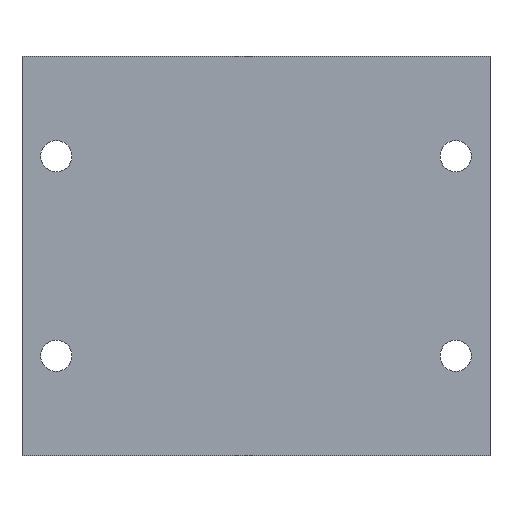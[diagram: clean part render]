
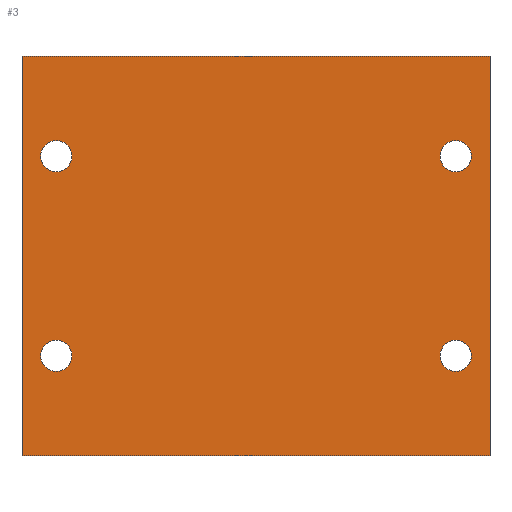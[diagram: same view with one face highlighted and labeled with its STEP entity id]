
A CAD part, left-side view. The second image highlights one B-rep face of the part: STEP entity #3.
In plain terms, the highlighted planar face has unit normal (-1, 0, 0).
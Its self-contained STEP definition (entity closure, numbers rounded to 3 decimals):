
#3 = ADVANCED_FACE ( 'NONE', ( #2445, #1973, #1490, #959, #443 ), #1454, .F. ) ;
#81 = AXIS2_PLACEMENT_3D ( 'NONE', #1642, #2086, #374 ) ;
#150 = CARTESIAN_POINT ( 'NONE',  ( 0., 69.5, 16. ) ) ;
#163 = CARTESIAN_POINT ( 'NONE',  ( 0., 69.5, 45.5 ) ) ;
#183 = VECTOR ( 'NONE', #2468, 1000. ) ;
#202 = VERTEX_POINT ( 'NONE', #2117 ) ;
#205 = CARTESIAN_POINT ( 'NONE',  ( 0., 5.5, 18.5 ) ) ;
#245 = LINE ( 'NONE', #511, #183 ) ;
#269 = DIRECTION ( 'NONE',  ( 0., 0., -1. ) ) ;
#302 = AXIS2_PLACEMENT_3D ( 'NONE', #150, #1669, #1803 ) ;
#319 = AXIS2_PLACEMENT_3D ( 'NONE', #1436, #1269, #2344 ) ;
#338 = CIRCLE ( 'NONE', #359, 2.5 ) ;
#344 = AXIS2_PLACEMENT_3D ( 'NONE', #1894, #1917, #1974 ) ;
#359 = AXIS2_PLACEMENT_3D ( 'NONE', #942, #952, #920 ) ;
#360 = VERTEX_POINT ( 'NONE', #2185 ) ;
#374 = DIRECTION ( 'NONE',  ( 0., 0., -1. ) ) ;
#416 = EDGE_LOOP ( 'NONE', ( #991, #1522 ) ) ;
#441 = VECTOR ( 'NONE', #2148, 1000. ) ;
#443 = FACE_OUTER_BOUND ( 'NONE', #454, .T. ) ;
#454 = EDGE_LOOP ( 'NONE', ( #468, #1740, #2429, #1960 ) ) ;
#468 = ORIENTED_EDGE ( 'NONE', *, *, #469, .T. ) ;
#469 = EDGE_CURVE ( 'NONE', #1698, #202, #1488, .T. ) ;
#470 = CARTESIAN_POINT ( 'NONE',  ( 0., 69.5, 48. ) ) ;
#509 = VECTOR ( 'NONE', #624, 1000. ) ;
#511 = CARTESIAN_POINT ( 'NONE',  ( 0., 0., 64. ) ) ;
#525 = VERTEX_POINT ( 'NONE', #2000 ) ;
#542 = VERTEX_POINT ( 'NONE', #813 ) ;
#544 = ORIENTED_EDGE ( 'NONE', *, *, #1868, .T. ) ;
#599 = DIRECTION ( 'NONE',  ( 0., 0., -1. ) ) ;
#600 = CARTESIAN_POINT ( 'NONE',  ( 0., 69.5, 48. ) ) ;
#612 = VERTEX_POINT ( 'NONE', #163 ) ;
#624 = DIRECTION ( 'NONE',  ( 0., -1., 0. ) ) ;
#721 = EDGE_LOOP ( 'NONE', ( #1107, #2311 ) ) ;
#777 = CARTESIAN_POINT ( 'NONE',  ( 0., 75., 64. ) ) ;
#804 = EDGE_CURVE ( 'NONE', #525, #360, #338, .T. ) ;
#813 = CARTESIAN_POINT ( 'NONE',  ( 0., 0., 64. ) ) ;
#817 = DIRECTION ( 'NONE',  ( 1., 0., 0. ) ) ;
#828 = DIRECTION ( 'NONE',  ( 0., 0., -1. ) ) ;
#861 = CARTESIAN_POINT ( 'NONE',  ( 0., 0., 0. ) ) ;
#919 = EDGE_LOOP ( 'NONE', ( #544, #1949 ) ) ;
#920 = DIRECTION ( 'NONE',  ( 0., 0., -1. ) ) ;
#937 = ORIENTED_EDGE ( 'NONE', *, *, #1572, .T. ) ;
#942 = CARTESIAN_POINT ( 'NONE',  ( 0., 5.5, 48. ) ) ;
#952 = DIRECTION ( 'NONE',  ( 1., 0., 0. ) ) ;
#959 = FACE_BOUND ( 'NONE', #2375, .T. ) ;
#972 = ORIENTED_EDGE ( 'NONE', *, *, #1455, .T. ) ;
#991 = ORIENTED_EDGE ( 'NONE', *, *, #1481, .T. ) ;
#1028 = LINE ( 'NONE', #1228, #509 ) ;
#1061 = EDGE_CURVE ( 'NONE', #542, #202, #245, .T. ) ;
#1107 = ORIENTED_EDGE ( 'NONE', *, *, #1146, .T. ) ;
#1121 = EDGE_CURVE ( 'NONE', #1401, #542, #1028, .T. ) ;
#1146 = EDGE_CURVE ( 'NONE', #360, #525, #2442, .T. ) ;
#1151 = VERTEX_POINT ( 'NONE', #1814 ) ;
#1161 = VECTOR ( 'NONE', #1603, 1000. ) ;
#1228 = CARTESIAN_POINT ( 'NONE',  ( 0., 0., 64. ) ) ;
#1245 = DIRECTION ( 'NONE',  ( 1., 0., 0. ) ) ;
#1269 = DIRECTION ( 'NONE',  ( 1., 0., 0. ) ) ;
#1315 = VERTEX_POINT ( 'NONE', #2401 ) ;
#1325 = CIRCLE ( 'NONE', #2469, 2.5 ) ;
#1329 = EDGE_CURVE ( 'NONE', #1151, #612, #1325, .T. ) ;
#1373 = CARTESIAN_POINT ( 'NONE',  ( 0., 69.5, 13.5 ) ) ;
#1401 = VERTEX_POINT ( 'NONE', #777 ) ;
#1412 = CARTESIAN_POINT ( 'NONE',  ( 0., 0., 64. ) ) ;
#1436 = CARTESIAN_POINT ( 'NONE',  ( 0., 5.5, 48. ) ) ;
#1452 = CIRCLE ( 'NONE', #1767, 2.5 ) ;
#1454 = PLANE ( 'NONE',  #1466 ) ;
#1455 = EDGE_CURVE ( 'NONE', #1315, #2089, #1786, .T. ) ;
#1466 = AXIS2_PLACEMENT_3D ( 'NONE', #1412, #1245, #599 ) ;
#1481 = EDGE_CURVE ( 'NONE', #1886, #2064, #1726, .T. ) ;
#1488 = LINE ( 'NONE', #861, #441 ) ;
#1490 = FACE_BOUND ( 'NONE', #416, .T. ) ;
#1522 = ORIENTED_EDGE ( 'NONE', *, *, #1703, .T. ) ;
#1572 = EDGE_CURVE ( 'NONE', #2089, #1315, #1452, .T. ) ;
#1603 = DIRECTION ( 'NONE',  ( 0., 0., -1. ) ) ;
#1640 = CARTESIAN_POINT ( 'NONE',  ( 0., 75., 0. ) ) ;
#1642 = CARTESIAN_POINT ( 'NONE',  ( 0., 5.5, 16. ) ) ;
#1653 = CIRCLE ( 'NONE', #302, 2.5 ) ;
#1669 = DIRECTION ( 'NONE',  ( 1., 0., 0. ) ) ;
#1677 = LINE ( 'NONE', #2319, #1161 ) ;
#1698 = VERTEX_POINT ( 'NONE', #1640 ) ;
#1703 = EDGE_CURVE ( 'NONE', #2064, #1886, #1653, .T. ) ;
#1726 = CIRCLE ( 'NONE', #344, 2.5 ) ;
#1740 = ORIENTED_EDGE ( 'NONE', *, *, #1061, .F. ) ;
#1767 = AXIS2_PLACEMENT_3D ( 'NONE', #2208, #2227, #269 ) ;
#1786 = CIRCLE ( 'NONE', #81, 2.5 ) ;
#1803 = DIRECTION ( 'NONE',  ( 0., 0., -1. ) ) ;
#1814 = CARTESIAN_POINT ( 'NONE',  ( 0., 69.5, 50.5 ) ) ;
#1841 = CIRCLE ( 'NONE', #2224, 2.5 ) ;
#1868 = EDGE_CURVE ( 'NONE', #612, #1151, #1841, .T. ) ;
#1886 = VERTEX_POINT ( 'NONE', #1373 ) ;
#1894 = CARTESIAN_POINT ( 'NONE',  ( 0., 69.5, 16. ) ) ;
#1917 = DIRECTION ( 'NONE',  ( 1., 0., 0. ) ) ;
#1949 = ORIENTED_EDGE ( 'NONE', *, *, #1329, .T. ) ;
#1960 = ORIENTED_EDGE ( 'NONE', *, *, #2443, .T. ) ;
#1973 = FACE_BOUND ( 'NONE', #919, .T. ) ;
#1974 = DIRECTION ( 'NONE',  ( 0., 0., -1. ) ) ;
#2000 = CARTESIAN_POINT ( 'NONE',  ( 0., 5.5, 50.5 ) ) ;
#2052 = DIRECTION ( 'NONE',  ( 1., 0., 0. ) ) ;
#2064 = VERTEX_POINT ( 'NONE', #2120 ) ;
#2086 = DIRECTION ( 'NONE',  ( 1., 0., 0. ) ) ;
#2089 = VERTEX_POINT ( 'NONE', #205 ) ;
#2117 = CARTESIAN_POINT ( 'NONE',  ( 0., 0., 0. ) ) ;
#2120 = CARTESIAN_POINT ( 'NONE',  ( 0., 69.5, 18.5 ) ) ;
#2148 = DIRECTION ( 'NONE',  ( 0., -1., 0. ) ) ;
#2185 = CARTESIAN_POINT ( 'NONE',  ( 0., 5.5, 45.5 ) ) ;
#2208 = CARTESIAN_POINT ( 'NONE',  ( 0., 5.5, 16. ) ) ;
#2224 = AXIS2_PLACEMENT_3D ( 'NONE', #600, #817, #828 ) ;
#2227 = DIRECTION ( 'NONE',  ( 1., 0., 0. ) ) ;
#2311 = ORIENTED_EDGE ( 'NONE', *, *, #804, .T. ) ;
#2319 = CARTESIAN_POINT ( 'NONE',  ( 0., 75., 64. ) ) ;
#2344 = DIRECTION ( 'NONE',  ( 0., 0., -1. ) ) ;
#2375 = EDGE_LOOP ( 'NONE', ( #972, #937 ) ) ;
#2401 = CARTESIAN_POINT ( 'NONE',  ( 0., 5.5, 13.5 ) ) ;
#2406 = DIRECTION ( 'NONE',  ( 0., 0., -1. ) ) ;
#2429 = ORIENTED_EDGE ( 'NONE', *, *, #1121, .F. ) ;
#2442 = CIRCLE ( 'NONE', #319, 2.5 ) ;
#2443 = EDGE_CURVE ( 'NONE', #1401, #1698, #1677, .T. ) ;
#2445 = FACE_BOUND ( 'NONE', #721, .T. ) ;
#2468 = DIRECTION ( 'NONE',  ( 0., 0., -1. ) ) ;
#2469 = AXIS2_PLACEMENT_3D ( 'NONE', #470, #2052, #2406 ) ;
